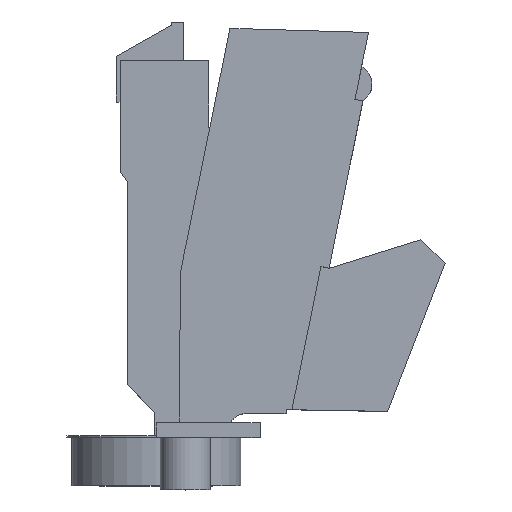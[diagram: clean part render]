
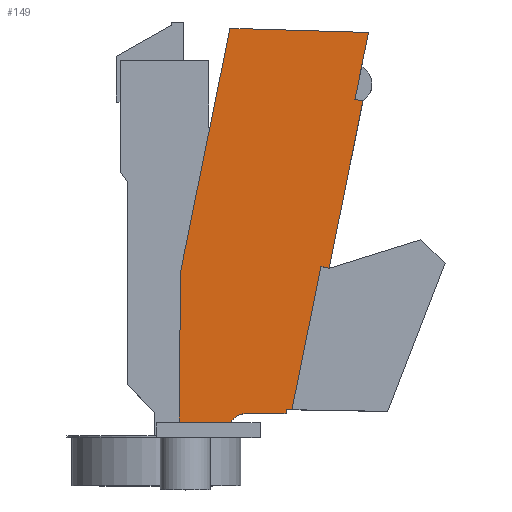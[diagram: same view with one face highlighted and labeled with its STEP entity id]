
A CAD part, top view. The second image highlights one B-rep face of the part: STEP entity #149.
In plain terms, the highlighted planar face has unit normal (0, 0, 1).
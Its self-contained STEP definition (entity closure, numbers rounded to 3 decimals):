
#6 = DIRECTION ( 'NONE',  ( 0., 0., -1. ) ) ;
#7 = DIRECTION ( 'NONE',  ( 1., 0., 0. ) ) ;
#15 = CARTESIAN_POINT ( 'NONE',  ( 30.249, 1.92, 12.1 ) ) ;
#63 = DIRECTION ( 'NONE',  ( 1., 0., 0. ) ) ;
#64 = CARTESIAN_POINT ( 'NONE',  ( 12., 3., 12.1 ) ) ;
#78 = DIRECTION ( 'NONE',  ( -0.199, -0.98, 0. ) ) ;
#90 = CARTESIAN_POINT ( 'NONE',  ( 47.789, 35.073, 12.1 ) ) ;
#149 = ADVANCED_FACE ( 'NONE', ( #707 ), #1384, .T. ) ;
#167 = CARTESIAN_POINT ( 'NONE',  ( 30.215, 4.92, 12.1 ) ) ;
#168 = DIRECTION ( 'NONE',  ( 1., 0.012, 0. ) ) ;
#169 = CARTESIAN_POINT ( 'NONE',  ( 38.88, 5.02, 12.1 ) ) ;
#171 = DIRECTION ( 'NONE',  ( 0., 1., 0. ) ) ;
#172 = CARTESIAN_POINT ( 'NONE',  ( 54.553, 76.962, 12.1 ) ) ;
#175 = DIRECTION ( 'NONE',  ( 0.199, 0.98, 0. ) ) ;
#178 = DIRECTION ( 'NONE',  ( -0.009, -1., 0. ) ) ;
#179 = CARTESIAN_POINT ( 'NONE',  ( 16.715, 0., 12.1 ) ) ;
#181 = DIRECTION ( 'NONE',  ( 0.98, -0.199, 0. ) ) ;
#183 = CARTESIAN_POINT ( 'NONE',  ( 11.108, 42.516, 12.1 ) ) ;
#185 = CARTESIAN_POINT ( 'NONE',  ( 27.265, 84.772, 12.1 ) ) ;
#186 = DIRECTION ( 'NONE',  ( -0.199, -0.98, 0. ) ) ;
#187 = CARTESIAN_POINT ( 'NONE',  ( 55.963, 83.91, 12.1 ) ) ;
#188 = CARTESIAN_POINT ( 'NONE',  ( 18.143, 77.186, 12.1 ) ) ;
#189 = DIRECTION ( 'NONE',  ( 0.98, -0.199, 0. ) ) ;
#190 = DIRECTION ( 'NONE',  ( -1., 0.03, 0. ) ) ;
#210 = ORIENTED_EDGE ( 'NONE', *, *, #1757, .T. ) ;
#233 = ORIENTED_EDGE ( 'NONE', *, *, #1683, .F. ) ;
#276 = ORIENTED_EDGE ( 'NONE', *, *, #1684, .T. ) ;
#281 = ORIENTED_EDGE ( 'NONE', *, *, #1679, .T. ) ;
#346 = ORIENTED_EDGE ( 'NONE', *, *, #1686, .T. ) ;
#367 = ORIENTED_EDGE ( 'NONE', *, *, #1685, .T. ) ;
#371 = ORIENTED_EDGE ( 'NONE', *, *, #1701, .F. ) ;
#372 = ORIENTED_EDGE ( 'NONE', *, *, #1682, .T. ) ;
#373 = ORIENTED_EDGE ( 'NONE', *, *, #1687, .T. ) ;
#374 = ORIENTED_EDGE ( 'NONE', *, *, #1788, .T. ) ;
#517 = ORIENTED_EDGE ( 'NONE', *, *, #1688, .T. ) ;
#518 = ORIENTED_EDGE ( 'NONE', *, *, #1692, .T. ) ;
#519 = ORIENTED_EDGE ( 'NONE', *, *, #1710, .T. ) ;
#543 = EDGE_LOOP ( 'NONE', ( #367, #519, #518, #517, #346, #374, #373, #372, #371, #233, #210, #276, #281 ) ) ;
#707 = FACE_OUTER_BOUND ( 'NONE', #543, .T. ) ;
#769 = LINE ( 'NONE', #187, #797 ) ;
#787 = LINE ( 'NONE', #185, #788 ) ;
#788 = VECTOR ( 'NONE', #186, 1000. ) ;
#793 = LINE ( 'NONE', #183, #794 ) ;
#794 = VECTOR ( 'NONE', #181, 1000. ) ;
#795 = LINE ( 'NONE', #188, #796 ) ;
#796 = VECTOR ( 'NONE', #189, 1000. ) ;
#797 = VECTOR ( 'NONE', #190, 1000. ) ;
#799 = LINE ( 'NONE', #179, #800 ) ;
#800 = VECTOR ( 'NONE', #178, 1000. ) ;
#801 = LINE ( 'NONE', #169, #802 ) ;
#802 = VECTOR ( 'NONE', #171, 1000. ) ;
#803 = LINE ( 'NONE', #172, #804 ) ;
#804 = VECTOR ( 'NONE', #175, 1000. ) ;
#805 = LINE ( 'NONE', #167, #806 ) ;
#806 = VECTOR ( 'NONE', #168, 1000. ) ;
#814 = CIRCLE ( 'NONE', #1904, 3. ) ;
#816 = LINE ( 'NONE', #90, #828 ) ;
#828 = VECTOR ( 'NONE', #78, 1000. ) ;
#845 = LINE ( 'NONE', #64, #846 ) ;
#846 = VECTOR ( 'NONE', #63, 1000. ) ;
#926 = LINE ( 'NONE', #1993, #927 ) ;
#927 = VECTOR ( 'NONE', #1994, 1000. ) ;
#981 = LINE ( 'NONE', #2062, #982 ) ;
#982 = VECTOR ( 'NONE', #2063, 1000. ) ;
#1115 = VERTEX_POINT ( 'NONE', #1502 ) ;
#1116 = VERTEX_POINT ( 'NONE', #1503 ) ;
#1124 = VERTEX_POINT ( 'NONE', #1511 ) ;
#1125 = VERTEX_POINT ( 'NONE', #1512 ) ;
#1137 = VERTEX_POINT ( 'NONE', #1524 ) ;
#1138 = VERTEX_POINT ( 'NONE', #1525 ) ;
#1147 = VERTEX_POINT ( 'NONE', #1534 ) ;
#1148 = VERTEX_POINT ( 'NONE', #1535 ) ;
#1153 = VERTEX_POINT ( 'NONE', #1540 ) ;
#1154 = VERTEX_POINT ( 'NONE', #1541 ) ;
#1155 = VERTEX_POINT ( 'NONE', #1542 ) ;
#1156 = VERTEX_POINT ( 'NONE', #1543 ) ;
#1157 = VERTEX_POINT ( 'NONE', #1544 ) ;
#1384 = PLANE ( 'NONE',  #1885 ) ;
#1387 = CARTESIAN_POINT ( 'NONE',  ( 52.387, 73.266, 12.1 ) ) ;
#1396 = DIRECTION ( 'NONE',  ( 0., 0., 1. ) ) ;
#1397 = DIRECTION ( 'NONE',  ( 1., 0., 0. ) ) ;
#1502 = CARTESIAN_POINT ( 'NONE',  ( 27.451, 3., 12.1 ) ) ;
#1503 = CARTESIAN_POINT ( 'NONE',  ( 16.742, 3., 12.1 ) ) ;
#1511 = CARTESIAN_POINT ( 'NONE',  ( 55.963, 83.91, 12.1 ) ) ;
#1512 = CARTESIAN_POINT ( 'NONE',  ( 53.157, 70.082, 12.1 ) ) ;
#1524 = CARTESIAN_POINT ( 'NONE',  ( 40.107, 5.764, 12.1 ) ) ;
#1525 = CARTESIAN_POINT ( 'NONE',  ( 38.88, 5.785, 12.1 ) ) ;
#1534 = CARTESIAN_POINT ( 'NONE',  ( 54.823, 69.744, 12.1 ) ) ;
#1535 = CARTESIAN_POINT ( 'NONE',  ( 47.789, 35.073, 12.1 ) ) ;
#1540 = CARTESIAN_POINT ( 'NONE',  ( 17.02, 34.28, 12.1 ) ) ;
#1541 = CARTESIAN_POINT ( 'NONE',  ( 30.215, 4.92, 12.1 ) ) ;
#1542 = CARTESIAN_POINT ( 'NONE',  ( 38.88, 5.02, 12.1 ) ) ;
#1543 = CARTESIAN_POINT ( 'NONE',  ( 46.123, 35.411, 12.1 ) ) ;
#1544 = CARTESIAN_POINT ( 'NONE',  ( 27.265, 84.772, 12.1 ) ) ;
#1679 = EDGE_CURVE ( 'NONE', #1157, #1153, #787, .T. ) ;
#1682 = EDGE_CURVE ( 'NONE', #1156, #1148, #793, .T. ) ;
#1683 = EDGE_CURVE ( 'NONE', #1125, #1147, #795, .T. ) ;
#1684 = EDGE_CURVE ( 'NONE', #1124, #1157, #769, .T. ) ;
#1685 = EDGE_CURVE ( 'NONE', #1153, #1116, #799, .T. ) ;
#1686 = EDGE_CURVE ( 'NONE', #1155, #1138, #801, .T. ) ;
#1687 = EDGE_CURVE ( 'NONE', #1137, #1156, #803, .T. ) ;
#1688 = EDGE_CURVE ( 'NONE', #1154, #1155, #805, .T. ) ;
#1692 = EDGE_CURVE ( 'NONE', #1115, #1154, #814, .T. ) ;
#1701 = EDGE_CURVE ( 'NONE', #1147, #1148, #816, .T. ) ;
#1710 = EDGE_CURVE ( 'NONE', #1116, #1115, #845, .T. ) ;
#1757 = EDGE_CURVE ( 'NONE', #1125, #1124, #926, .T. ) ;
#1788 = EDGE_CURVE ( 'NONE', #1138, #1137, #981, .T. ) ;
#1885 = AXIS2_PLACEMENT_3D ( 'NONE', #1387, #1396, #1397 ) ;
#1904 = AXIS2_PLACEMENT_3D ( 'NONE', #15, #6, #7 ) ;
#1993 = CARTESIAN_POINT ( 'NONE',  ( 54.553, 76.962, 12.1 ) ) ;
#1994 = DIRECTION ( 'NONE',  ( 0.199, 0.98, 0. ) ) ;
#2062 = CARTESIAN_POINT ( 'NONE',  ( 38.88, 5.785, 12.1 ) ) ;
#2063 = DIRECTION ( 'NONE',  ( 1., -0.017, 0. ) ) ;
